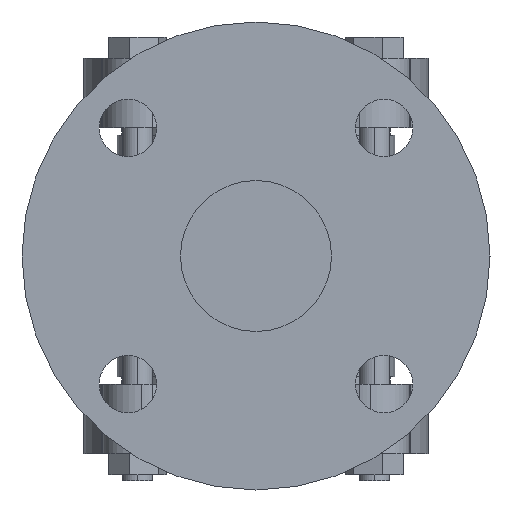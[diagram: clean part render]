
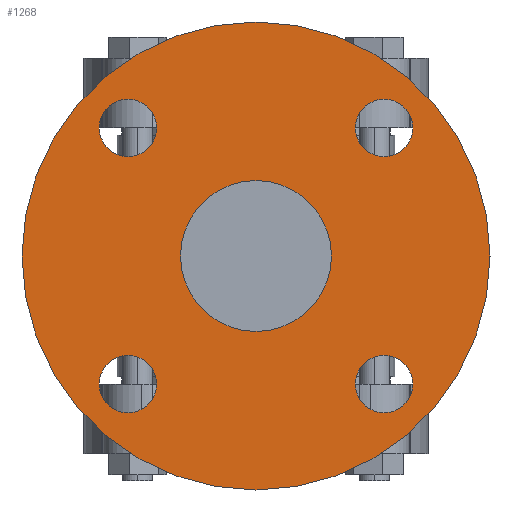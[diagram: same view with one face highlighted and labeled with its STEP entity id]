
A CAD part, left-side view. The second image highlights one B-rep face of the part: STEP entity #1268.
In plain terms, the highlighted planar face has unit normal (-1, 0, 0).
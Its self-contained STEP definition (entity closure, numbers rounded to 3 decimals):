
#10 = CARTESIAN_POINT ( 'NONE',  ( -100., -32.926, 42.426 ) ) ;
#128 = CARTESIAN_POINT ( 'NONE',  ( -100., 51.926, 42.426 ) ) ;
#225 = DIRECTION ( 'NONE',  ( -1., 0., 0. ) ) ;
#244 = CARTESIAN_POINT ( 'NONE',  ( -100., -42.426, -42.426 ) ) ;
#266 = CARTESIAN_POINT ( 'NONE',  ( -100., 51.926, -42.426 ) ) ;
#269 = AXIS2_PLACEMENT_3D ( 'NONE', #690, #1648, #3503 ) ;
#305 = DIRECTION ( 'NONE',  ( 0., 0., 1. ) ) ;
#330 = ORIENTED_EDGE ( 'NONE', *, *, #1724, .T. ) ;
#357 = VERTEX_POINT ( 'NONE', #5765 ) ;
#384 = DIRECTION ( 'NONE',  ( -1., 0., 0. ) ) ;
#467 = FACE_OUTER_BOUND ( 'NONE', #4250, .T. ) ;
#500 = VERTEX_POINT ( 'NONE', #266 ) ;
#512 = ORIENTED_EDGE ( 'NONE', *, *, #2548, .F. ) ;
#540 = EDGE_LOOP ( 'NONE', ( #2238, #512 ) ) ;
#597 = CIRCLE ( 'NONE', #3817, 9.5 ) ;
#666 = EDGE_CURVE ( 'NONE', #2652, #2368, #1592, .T. ) ;
#690 = CARTESIAN_POINT ( 'NONE',  ( -100., 42.426, 42.426 ) ) ;
#734 = DIRECTION ( 'NONE',  ( -1., 0., 0. ) ) ;
#772 = AXIS2_PLACEMENT_3D ( 'NONE', #5388, #225, #1705 ) ;
#825 = AXIS2_PLACEMENT_3D ( 'NONE', #3573, #1283, #5403 ) ;
#841 = FACE_BOUND ( 'NONE', #540, .T. ) ;
#872 = CARTESIAN_POINT ( 'NONE',  ( -100., 0., 0. ) ) ;
#937 = ORIENTED_EDGE ( 'NONE', *, *, #5954, .F. ) ;
#1023 = EDGE_LOOP ( 'NONE', ( #4078, #2034 ) ) ;
#1118 = ORIENTED_EDGE ( 'NONE', *, *, #1246, .F. ) ;
#1133 = CARTESIAN_POINT ( 'NONE',  ( -100., 77.5, 0. ) ) ;
#1214 = DIRECTION ( 'NONE',  ( -1., 0., 0. ) ) ;
#1245 = DIRECTION ( 'NONE',  ( 0., 0., 1. ) ) ;
#1246 = EDGE_CURVE ( 'NONE', #2368, #2652, #2885, .T. ) ;
#1268 = ADVANCED_FACE ( 'NONE', ( #4663, #4692, #5059, #5973, #841, #467 ), #1920, .F. ) ;
#1281 = ORIENTED_EDGE ( 'NONE', *, *, #5352, .F. ) ;
#1283 = DIRECTION ( 'NONE',  ( -1., 0., 0. ) ) ;
#1365 = EDGE_CURVE ( 'NONE', #500, #3061, #3431, .T. ) ;
#1505 = CIRCLE ( 'NONE', #1702, 25. ) ;
#1527 = DIRECTION ( 'NONE',  ( 0., 1., 0. ) ) ;
#1529 = AXIS2_PLACEMENT_3D ( 'NONE', #872, #3769, #5749 ) ;
#1561 = AXIS2_PLACEMENT_3D ( 'NONE', #4079, #5849, #4940 ) ;
#1562 = CARTESIAN_POINT ( 'NONE',  ( -100., 32.926, 42.426 ) ) ;
#1592 = CIRCLE ( 'NONE', #5007, 9.5 ) ;
#1624 = EDGE_LOOP ( 'NONE', ( #937, #2868 ) ) ;
#1648 = DIRECTION ( 'NONE',  ( -1., 0., 0. ) ) ;
#1702 = AXIS2_PLACEMENT_3D ( 'NONE', #2279, #2705, #2341 ) ;
#1705 = DIRECTION ( 'NONE',  ( 0., -1., 0. ) ) ;
#1724 = EDGE_CURVE ( 'NONE', #4828, #2162, #3463, .T. ) ;
#1821 = VERTEX_POINT ( 'NONE', #4982 ) ;
#1920 = PLANE ( 'NONE',  #1529 ) ;
#2034 = ORIENTED_EDGE ( 'NONE', *, *, #2206, .F. ) ;
#2047 = ORIENTED_EDGE ( 'NONE', *, *, #2176, .T. ) ;
#2070 = DIRECTION ( 'NONE',  ( 0., -1., 0. ) ) ;
#2073 = AXIS2_PLACEMENT_3D ( 'NONE', #3317, #3866, #2070 ) ;
#2112 = AXIS2_PLACEMENT_3D ( 'NONE', #3686, #3230, #2806 ) ;
#2123 = CIRCLE ( 'NONE', #5522, 9.5 ) ;
#2162 = VERTEX_POINT ( 'NONE', #4915 ) ;
#2176 = EDGE_CURVE ( 'NONE', #2162, #4828, #4604, .T. ) ;
#2206 = EDGE_CURVE ( 'NONE', #5270, #357, #2951, .T. ) ;
#2238 = ORIENTED_EDGE ( 'NONE', *, *, #2700, .F. ) ;
#2267 = AXIS2_PLACEMENT_3D ( 'NONE', #3995, #4026, #5887 ) ;
#2279 = CARTESIAN_POINT ( 'NONE',  ( -100., 0., 0. ) ) ;
#2334 = EDGE_LOOP ( 'NONE', ( #3630, #1281 ) ) ;
#2341 = DIRECTION ( 'NONE',  ( 0., -1., 0. ) ) ;
#2368 = VERTEX_POINT ( 'NONE', #10 ) ;
#2472 = CARTESIAN_POINT ( 'NONE',  ( -100., 25., 0. ) ) ;
#2501 = VERTEX_POINT ( 'NONE', #2472 ) ;
#2548 = EDGE_CURVE ( 'NONE', #2501, #1821, #4189, .T. ) ;
#2652 = VERTEX_POINT ( 'NONE', #5027 ) ;
#2678 = EDGE_LOOP ( 'NONE', ( #4474, #1118 ) ) ;
#2700 = EDGE_CURVE ( 'NONE', #1821, #2501, #1505, .T. ) ;
#2705 = DIRECTION ( 'NONE',  ( -1., 0., 0. ) ) ;
#2806 = DIRECTION ( 'NONE',  ( 0., 1., 0. ) ) ;
#2848 = VERTEX_POINT ( 'NONE', #128 ) ;
#2868 = ORIENTED_EDGE ( 'NONE', *, *, #1365, .F. ) ;
#2885 = CIRCLE ( 'NONE', #2112, 9.5 ) ;
#2951 = CIRCLE ( 'NONE', #3733, 9.5 ) ;
#3061 = VERTEX_POINT ( 'NONE', #4496 ) ;
#3185 = CARTESIAN_POINT ( 'NONE',  ( -100., 42.426, 42.426 ) ) ;
#3230 = DIRECTION ( 'NONE',  ( -1., 0., 0. ) ) ;
#3317 = CARTESIAN_POINT ( 'NONE',  ( -100., 42.426, -42.426 ) ) ;
#3431 = CIRCLE ( 'NONE', #2073, 9.5 ) ;
#3463 = CIRCLE ( 'NONE', #825, 77.5 ) ;
#3476 = CARTESIAN_POINT ( 'NONE',  ( -100., -32.926, -42.426 ) ) ;
#3503 = DIRECTION ( 'NONE',  ( 0., 0., -1. ) ) ;
#3573 = CARTESIAN_POINT ( 'NONE',  ( -100., 0., 0. ) ) ;
#3574 = DIRECTION ( 'NONE',  ( 0., 0., -1. ) ) ;
#3606 = EDGE_CURVE ( 'NONE', #3719, #2848, #2123, .T. ) ;
#3630 = ORIENTED_EDGE ( 'NONE', *, *, #3606, .F. ) ;
#3686 = CARTESIAN_POINT ( 'NONE',  ( -100., -42.426, 42.426 ) ) ;
#3719 = VERTEX_POINT ( 'NONE', #1562 ) ;
#3733 = AXIS2_PLACEMENT_3D ( 'NONE', #5398, #1214, #1245 ) ;
#3769 = DIRECTION ( 'NONE',  ( 1., 0., 0. ) ) ;
#3793 = CIRCLE ( 'NONE', #772, 9.5 ) ;
#3817 = AXIS2_PLACEMENT_3D ( 'NONE', #244, #734, #305 ) ;
#3866 = DIRECTION ( 'NONE',  ( -1., 0., 0. ) ) ;
#3995 = CARTESIAN_POINT ( 'NONE',  ( -100., 0., 0. ) ) ;
#4026 = DIRECTION ( 'NONE',  ( -1., 0., 0. ) ) ;
#4078 = ORIENTED_EDGE ( 'NONE', *, *, #4986, .F. ) ;
#4079 = CARTESIAN_POINT ( 'NONE',  ( -100., 0., 0. ) ) ;
#4189 = CIRCLE ( 'NONE', #1561, 25. ) ;
#4250 = EDGE_LOOP ( 'NONE', ( #2047, #330 ) ) ;
#4474 = ORIENTED_EDGE ( 'NONE', *, *, #666, .F. ) ;
#4496 = CARTESIAN_POINT ( 'NONE',  ( -100., 32.926, -42.426 ) ) ;
#4604 = CIRCLE ( 'NONE', #2267, 77.5 ) ;
#4663 = FACE_BOUND ( 'NONE', #1023, .T. ) ;
#4692 = FACE_BOUND ( 'NONE', #2678, .T. ) ;
#4828 = VERTEX_POINT ( 'NONE', #1133 ) ;
#4915 = CARTESIAN_POINT ( 'NONE',  ( -100., -77.5, 0. ) ) ;
#4940 = DIRECTION ( 'NONE',  ( 0., -1., 0. ) ) ;
#4982 = CARTESIAN_POINT ( 'NONE',  ( -100., -25., 0. ) ) ;
#4986 = EDGE_CURVE ( 'NONE', #357, #5270, #597, .T. ) ;
#5007 = AXIS2_PLACEMENT_3D ( 'NONE', #5636, #5753, #1527 ) ;
#5027 = CARTESIAN_POINT ( 'NONE',  ( -100., -51.926, 42.426 ) ) ;
#5059 = FACE_BOUND ( 'NONE', #2334, .T. ) ;
#5270 = VERTEX_POINT ( 'NONE', #3476 ) ;
#5352 = EDGE_CURVE ( 'NONE', #2848, #3719, #5444, .T. ) ;
#5388 = CARTESIAN_POINT ( 'NONE',  ( -100., 42.426, -42.426 ) ) ;
#5398 = CARTESIAN_POINT ( 'NONE',  ( -100., -42.426, -42.426 ) ) ;
#5403 = DIRECTION ( 'NONE',  ( 0., -1., 0. ) ) ;
#5444 = CIRCLE ( 'NONE', #269, 9.5 ) ;
#5522 = AXIS2_PLACEMENT_3D ( 'NONE', #3185, #384, #3574 ) ;
#5636 = CARTESIAN_POINT ( 'NONE',  ( -100., -42.426, 42.426 ) ) ;
#5749 = DIRECTION ( 'NONE',  ( 0., 1., 0. ) ) ;
#5753 = DIRECTION ( 'NONE',  ( -1., 0., 0. ) ) ;
#5765 = CARTESIAN_POINT ( 'NONE',  ( -100., -51.926, -42.426 ) ) ;
#5849 = DIRECTION ( 'NONE',  ( -1., 0., 0. ) ) ;
#5887 = DIRECTION ( 'NONE',  ( 0., -1., 0. ) ) ;
#5954 = EDGE_CURVE ( 'NONE', #3061, #500, #3793, .T. ) ;
#5973 = FACE_BOUND ( 'NONE', #1624, .T. ) ;
